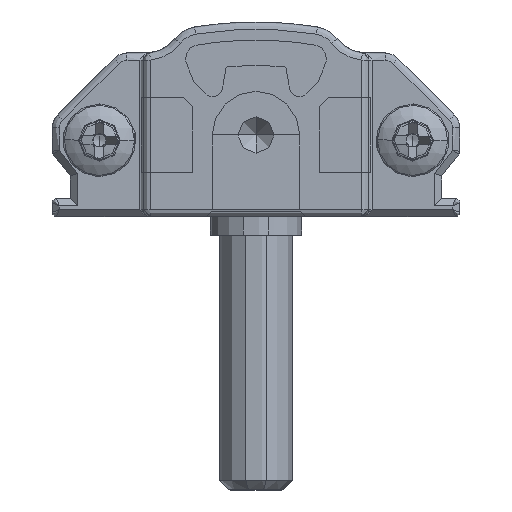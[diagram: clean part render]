
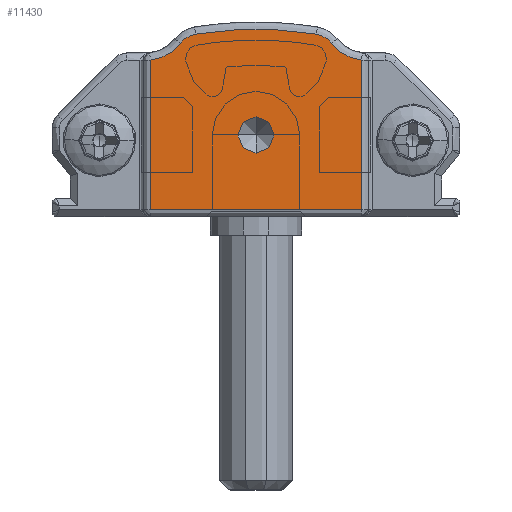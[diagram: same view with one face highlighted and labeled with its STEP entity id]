
A CAD part, front view. The second image highlights one B-rep face of the part: STEP entity #11430.
In plain terms, the highlighted planar face has unit normal (0, -1, 0).
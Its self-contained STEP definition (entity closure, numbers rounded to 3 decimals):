
#665 = CARTESIAN_POINT ( 'NONE',  ( 15.332, -15., 9.541 ) ) ;
#2544 = DIRECTION ( 'NONE',  ( 0., 0., -1. ) ) ;
#2863 = CARTESIAN_POINT ( 'NONE',  ( 7.892, -15., 10.034 ) ) ;
#4590 = VERTEX_POINT ( 'NONE', #33411 ) ;
#5001 = EDGE_CURVE ( 'NONE', #8829, #11927, #41678, .T. ) ;
#5029 = EDGE_CURVE ( 'NONE', #9596, #31605, #6464, .T. ) ;
#6464 = CIRCLE ( 'NONE', #42868, 1. ) ;
#6933 = LINE ( 'NONE', #17358, #18158 ) ;
#7122 = CIRCLE ( 'NONE', #31339, 20.676 ) ;
#7155 = DIRECTION ( 'NONE',  ( 0., 0., -1. ) ) ;
#8829 = VERTEX_POINT ( 'NONE', #24430 ) ;
#8866 = DIRECTION ( 'NONE',  ( 0., 0., -1. ) ) ;
#8912 = DIRECTION ( 'NONE',  ( 0., -1., 0. ) ) ;
#9015 = DIRECTION ( 'NONE',  ( 0., -1., 0. ) ) ;
#9561 = AXIS2_PLACEMENT_3D ( 'NONE', #38355, #45957, #2544 ) ;
#9596 = VERTEX_POINT ( 'NONE', #27384 ) ;
#10724 = CARTESIAN_POINT ( 'NONE',  ( 17.238, -15., 11. ) ) ;
#11430 = ADVANCED_FACE ( 'NONE', ( #13355, #27609 ), #16662, .T. ) ;
#11892 = DIRECTION ( 'NONE',  ( 1., 0., 0. ) ) ;
#11927 = VERTEX_POINT ( 'NONE', #16325 ) ;
#12219 = CARTESIAN_POINT ( 'NONE',  ( 8.1, -15., 8.75 ) ) ;
#12317 = CARTESIAN_POINT ( 'NONE',  ( 11.2, -15., -10.376 ) ) ;
#12370 = EDGE_CURVE ( 'NONE', #12971, #45541, #34865, .T. ) ;
#12410 = DIRECTION ( 'NONE',  ( 0., -1., 0. ) ) ;
#12880 = EDGE_CURVE ( 'NONE', #45541, #41807, #37092, .T. ) ;
#12971 = VERTEX_POINT ( 'NONE', #2863 ) ;
#13355 = FACE_OUTER_BOUND ( 'NONE', #26753, .T. ) ;
#15159 = EDGE_CURVE ( 'NONE', #4590, #8829, #30828, .T. ) ;
#15208 = CARTESIAN_POINT ( 'NONE',  ( 11.2, -15., 4.5 ) ) ;
#15619 = DIRECTION ( 'NONE',  ( 0., 0., -1. ) ) ;
#16325 = CARTESIAN_POINT ( 'NONE',  ( 17., -15., 8.612 ) ) ;
#16545 = AXIS2_PLACEMENT_3D ( 'NONE', #20427, #35330, #31514 ) ;
#16662 = PLANE ( 'NONE',  #37776 ) ;
#17358 = CARTESIAN_POINT ( 'NONE',  ( 5.4, -15., 0.4 ) ) ;
#17908 = CIRCLE ( 'NONE', #9561, 1.3 ) ;
#17918 = CARTESIAN_POINT ( 'NONE',  ( 7.068, -15., 9.541 ) ) ;
#18158 = VECTOR ( 'NONE', #35857, 1000. ) ;
#18332 = ORIENTED_EDGE ( 'NONE', *, *, #36006, .T. ) ;
#18763 = DIRECTION ( 'NONE',  ( 0., 0., -1. ) ) ;
#20180 = CARTESIAN_POINT ( 'NONE',  ( 5.4, -15., 8.612 ) ) ;
#20427 = CARTESIAN_POINT ( 'NONE',  ( 5.162, -15., 11. ) ) ;
#21668 = VERTEX_POINT ( 'NONE', #41894 ) ;
#23389 = DIRECTION ( 'NONE',  ( 0., 0., -1. ) ) ;
#23643 = CARTESIAN_POINT ( 'NONE',  ( 17., -15., 8.612 ) ) ;
#24430 = CARTESIAN_POINT ( 'NONE',  ( 17., -15., 0.4 ) ) ;
#25216 = DIRECTION ( 'NONE',  ( 0., 1., 0. ) ) ;
#25666 = EDGE_LOOP ( 'NONE', ( #35791, #31321 ) ) ;
#26402 = CARTESIAN_POINT ( 'NONE',  ( 17., -15., 0.4 ) ) ;
#26753 = EDGE_LOOP ( 'NONE', ( #43067, #18332, #46928, #33606, #45224, #45946, #40383, #28945 ) ) ;
#27384 = CARTESIAN_POINT ( 'NONE',  ( 11.2, -15., 3.5 ) ) ;
#27609 = FACE_BOUND ( 'NONE', #25666, .T. ) ;
#28945 = ORIENTED_EDGE ( 'NONE', *, *, #15159, .T. ) ;
#30504 = EDGE_CURVE ( 'NONE', #31605, #9596, #36663, .T. ) ;
#30785 = EDGE_CURVE ( 'NONE', #21668, #12971, #7122, .T. ) ;
#30828 = LINE ( 'NONE', #26402, #40823 ) ;
#31321 = ORIENTED_EDGE ( 'NONE', *, *, #30504, .F. ) ;
#31339 = AXIS2_PLACEMENT_3D ( 'NONE', #12317, #33889, #15619 ) ;
#31514 = DIRECTION ( 'NONE',  ( 0., 0., -1. ) ) ;
#31605 = VERTEX_POINT ( 'NONE', #43250 ) ;
#32004 = DIRECTION ( 'NONE',  ( 0., 0., -1. ) ) ;
#32152 = EDGE_CURVE ( 'NONE', #37557, #21668, #17908, .T. ) ;
#32190 = VECTOR ( 'NONE', #33596, 1000. ) ;
#32624 = AXIS2_PLACEMENT_3D ( 'NONE', #10724, #25216, #7155 ) ;
#33411 = CARTESIAN_POINT ( 'NONE',  ( 5.4, -15., 0.4 ) ) ;
#33596 = DIRECTION ( 'NONE',  ( 0., 0., 1. ) ) ;
#33606 = ORIENTED_EDGE ( 'NONE', *, *, #30785, .T. ) ;
#33889 = DIRECTION ( 'NONE',  ( 0., -1., 0. ) ) ;
#34865 = CIRCLE ( 'NONE', #45381, 1.3 ) ;
#35330 = DIRECTION ( 'NONE',  ( 0., 1., 0. ) ) ;
#35791 = ORIENTED_EDGE ( 'NONE', *, *, #5029, .F. ) ;
#35857 = DIRECTION ( 'NONE',  ( 0., 0., -1. ) ) ;
#36006 = EDGE_CURVE ( 'NONE', #11927, #37557, #44047, .T. ) ;
#36663 = CIRCLE ( 'NONE', #37430, 1. ) ;
#37092 = CIRCLE ( 'NONE', #16545, 2.4 ) ;
#37430 = AXIS2_PLACEMENT_3D ( 'NONE', #15208, #9015, #18763 ) ;
#37557 = VERTEX_POINT ( 'NONE', #665 ) ;
#37776 = AXIS2_PLACEMENT_3D ( 'NONE', #41627, #12410, #8866 ) ;
#38355 = CARTESIAN_POINT ( 'NONE',  ( 14.3, -15., 8.75 ) ) ;
#40383 = ORIENTED_EDGE ( 'NONE', *, *, #41501, .T. ) ;
#40823 = VECTOR ( 'NONE', #11892, 1000. ) ;
#41180 = DIRECTION ( 'NONE',  ( 0., -1., 0. ) ) ;
#41440 = CARTESIAN_POINT ( 'NONE',  ( 11.2, -15., 4.5 ) ) ;
#41501 = EDGE_CURVE ( 'NONE', #41807, #4590, #6933, .T. ) ;
#41627 = CARTESIAN_POINT ( 'NONE',  ( 22.15, -15., 3.606 ) ) ;
#41678 = LINE ( 'NONE', #23643, #32190 ) ;
#41807 = VERTEX_POINT ( 'NONE', #20180 ) ;
#41894 = CARTESIAN_POINT ( 'NONE',  ( 14.508, -15., 10.034 ) ) ;
#42868 = AXIS2_PLACEMENT_3D ( 'NONE', #41440, #8912, #23389 ) ;
#43067 = ORIENTED_EDGE ( 'NONE', *, *, #5001, .T. ) ;
#43250 = CARTESIAN_POINT ( 'NONE',  ( 11.2, -15., 5.5 ) ) ;
#44047 = CIRCLE ( 'NONE', #32624, 2.4 ) ;
#45224 = ORIENTED_EDGE ( 'NONE', *, *, #12370, .T. ) ;
#45381 = AXIS2_PLACEMENT_3D ( 'NONE', #12219, #41180, #32004 ) ;
#45541 = VERTEX_POINT ( 'NONE', #17918 ) ;
#45946 = ORIENTED_EDGE ( 'NONE', *, *, #12880, .T. ) ;
#45957 = DIRECTION ( 'NONE',  ( 0., -1., 0. ) ) ;
#46928 = ORIENTED_EDGE ( 'NONE', *, *, #32152, .T. ) ;
